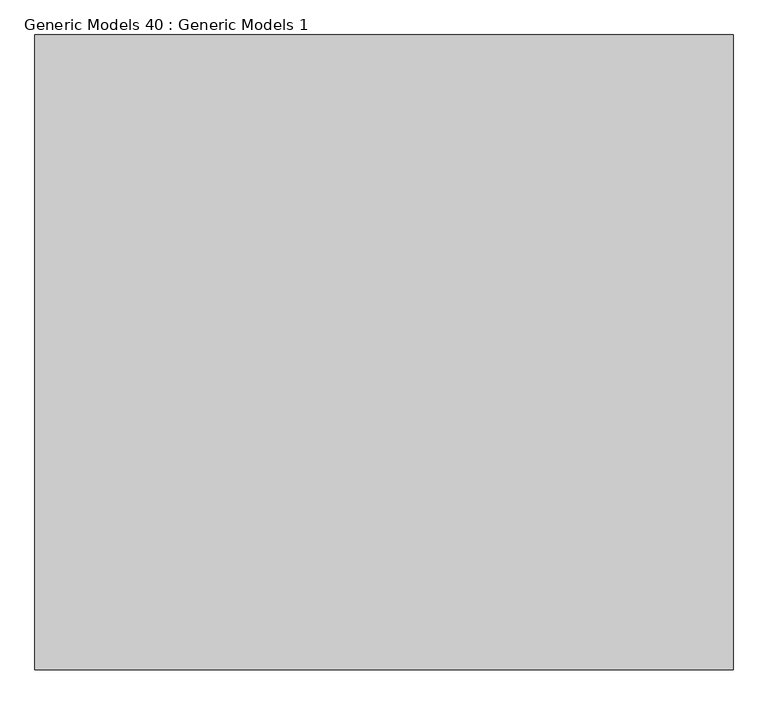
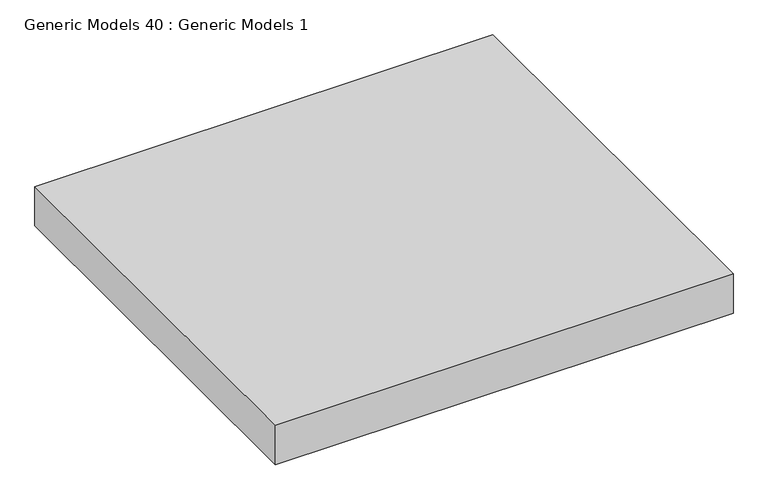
"""IFC4 building model written with IfcOpenShell, lengths in millimetres: proxy geometry, Generic Models 40 : Generic Models 1."""

from ifc_helpers import new_model, si_unit, origin, origin_with_axes, place, context, project, spatial, polyline, outline, extrude, source, transform, mapped, element, save


def generic_models_40_generic_models_1_f40014b8(model_context):
    return source(origin(), model_context, "Body", "SweptSolid", [
        extrude(outline(polyline([(2637.1851171, -7746.5772826), (2637.1851171, -6746.5772826), (3737.1851171, -6746.5772826), (3737.1851171, -7746.5772826), (2637.1851171, -7746.5772826)])), origin_with_axes(), (0.0, 0.0, 1.0), 100.0),
    ])


if __name__ == "__main__":
    model = new_model("IFC4")
    model_context = context("Model", 3, world=origin())
    ifc_project = project(units=[si_unit("LENGTHUNIT", "METRE", prefix="MILLI")], contexts=[model_context])
    site = spatial("IfcSite", under=ifc_project)
    building = spatial("IfcBuilding", under=site)
    placement = place(None, origin())
    generic_models_40_generic_models_1_shape = generic_models_40_generic_models_1_f40014b8(model_context)
    element("IfcBuildingElementProxy", 1, Name="Generic Models 40 : Generic Models 1", ObjectType="Generic Models 40 : Generic Models 1", at=placement, inside=building, context=model_context, shape_type="MappedRepresentation", body=[
        mapped(generic_models_40_generic_models_1_shape, transform((0.0, 0.0, 0.0), x_axis=(1.0, 0.0, 0.0), y_axis=(0.0, 1.0, 0.0), z_axis=(0.0, 0.0, 1.0))),
    ])
    save(model, "model.ifc")
